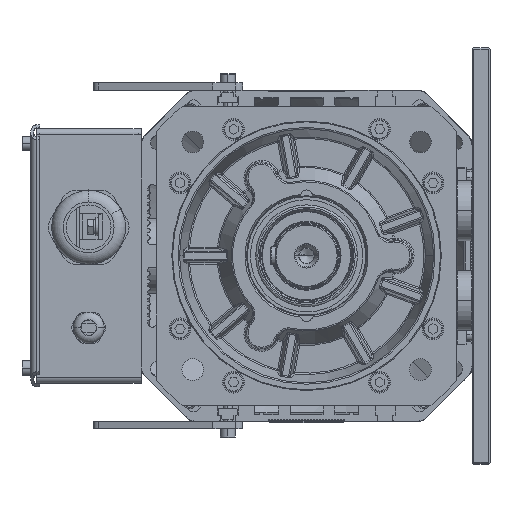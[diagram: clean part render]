
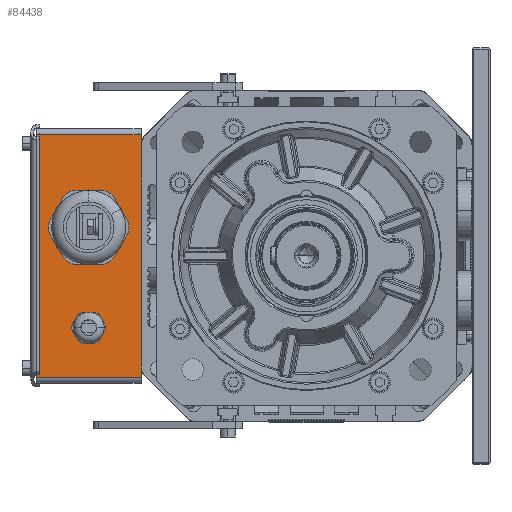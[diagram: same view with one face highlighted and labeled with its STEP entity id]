
A CAD part, left-side view. The second image highlights one B-rep face of the part: STEP entity #84438.
In plain terms, the highlighted planar face has unit normal (-1, 0, 0).
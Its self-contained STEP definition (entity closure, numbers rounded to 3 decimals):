
#82248=DIRECTION('',(0.,0.,1.));
#82249=VECTOR('',#82248,162.);
#82250=CARTESIAN_POINT('',(150.,110.5,-81.));
#82251=LINE('',#82250,#82249);
#82525=CARTESIAN_POINT('',(150.,145.5,-48.));
#82526=DIRECTION('',(-1.,0.,0.));
#82527=DIRECTION('',(0.,1.,0.));
#82528=AXIS2_PLACEMENT_3D('',#82525,#82526,#82527);
#82530=CARTESIAN_POINT('',(150.,145.5,-48.));
#82531=DIRECTION('',(-1.,0.,0.));
#82532=DIRECTION('',(0.,-1.,0.));
#82533=AXIS2_PLACEMENT_3D('',#82530,#82531,#82532);
#82535=CARTESIAN_POINT('',(150.,145.5,19.));
#82536=DIRECTION('',(-1.,0.,0.));
#82537=DIRECTION('',(0.,1.,0.));
#82538=AXIS2_PLACEMENT_3D('',#82535,#82536,#82537);
#82540=CARTESIAN_POINT('',(150.,145.5,19.));
#82541=DIRECTION('',(-1.,0.,0.));
#82542=DIRECTION('',(0.,-1.,0.));
#82543=AXIS2_PLACEMENT_3D('',#82540,#82541,#82542);
#82545=DIRECTION('',(0.,0.,1.));
#82546=VECTOR('',#82545,162.);
#82547=CARTESIAN_POINT('',(150.,180.5,-81.));
#82548=LINE('',#82547,#82546);
#83485=DIRECTION('',(0.,-1.,0.));
#83486=VECTOR('',#83485,70.);
#83487=CARTESIAN_POINT('',(150.,180.5,-81.));
#83488=LINE('',#83487,#83486);
#83505=DIRECTION('',(0.,1.,0.));
#83506=VECTOR('',#83505,70.);
#83507=CARTESIAN_POINT('',(150.,110.5,81.));
#83508=LINE('',#83507,#83506);
#83817=CARTESIAN_POINT('',(150.,155.5,-48.));
#83818=CARTESIAN_POINT('',(150.,135.5,-48.));
#83819=VERTEX_POINT('',#83817);
#83820=VERTEX_POINT('',#83818);
#83821=CARTESIAN_POINT('',(150.,170.5,19.));
#83822=CARTESIAN_POINT('',(150.,120.5,19.));
#83823=VERTEX_POINT('',#83821);
#83824=VERTEX_POINT('',#83822);
#84021=CARTESIAN_POINT('',(150.,110.5,-81.));
#84023=VERTEX_POINT('',#84021);
#84034=CARTESIAN_POINT('',(150.,110.5,81.));
#84036=VERTEX_POINT('',#84034);
#84053=CARTESIAN_POINT('',(150.,180.5,81.));
#84055=VERTEX_POINT('',#84053);
#84066=CARTESIAN_POINT('',(150.,180.5,-81.));
#84068=VERTEX_POINT('',#84066);
#84413=CARTESIAN_POINT('',(150.,110.5,-85.));
#84414=DIRECTION('',(-1.,0.,0.));
#84415=DIRECTION('',(0.,0.,1.));
#84416=AXIS2_PLACEMENT_3D('',#84413,#84414,#84415);
#84417=PLANE('',#84416);
#84419=ORIENTED_EDGE('',*,*,#84418,.F.);
#84420=ORIENTED_EDGE('',*,*,#84220,.F.);
#84422=ORIENTED_EDGE('',*,*,#84421,.F.);
#84423=ORIENTED_EDGE('',*,*,#84280,.T.);
#84424=EDGE_LOOP('',(#84419,#84420,#84422,#84423));
#84425=FACE_OUTER_BOUND('',#84424,.F.);
#84427=ORIENTED_EDGE('',*,*,#84426,.T.);
#84429=ORIENTED_EDGE('',*,*,#84428,.T.);
#84430=EDGE_LOOP('',(#84427,#84429));
#84431=FACE_BOUND('',#84430,.F.);
#84433=ORIENTED_EDGE('',*,*,#84432,.T.);
#84435=ORIENTED_EDGE('',*,*,#84434,.T.);
#84436=EDGE_LOOP('',(#84433,#84435));
#84437=FACE_BOUND('',#84436,.F.);
#84438=ADVANCED_FACE('',(#84425,#84431,#84437),#84417,.T.);
#82529=CIRCLE('',#82528,10.);
#82534=CIRCLE('',#82533,10.);
#82539=CIRCLE('',#82538,25.);
#82544=CIRCLE('',#82543,25.);
#84220=EDGE_CURVE('',#84023,#84036,#82251,.T.);
#84280=EDGE_CURVE('',#84068,#84055,#82548,.T.);
#84418=EDGE_CURVE('',#84036,#84055,#83508,.T.);
#84421=EDGE_CURVE('',#84068,#84023,#83488,.T.);
#84426=EDGE_CURVE('',#83823,#83824,#82539,.T.);
#84428=EDGE_CURVE('',#83824,#83823,#82544,.T.);
#84432=EDGE_CURVE('',#83819,#83820,#82529,.T.);
#84434=EDGE_CURVE('',#83820,#83819,#82534,.T.);
